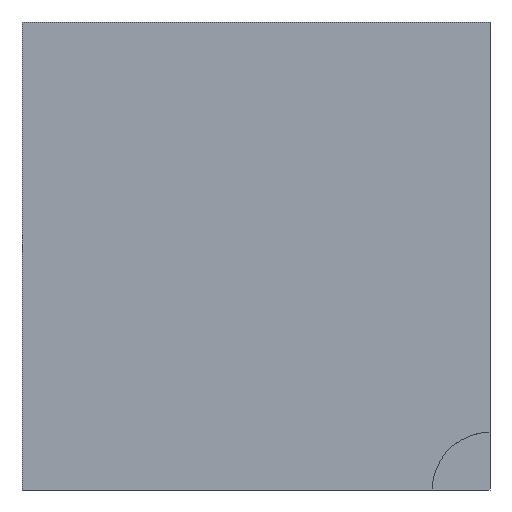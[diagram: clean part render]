
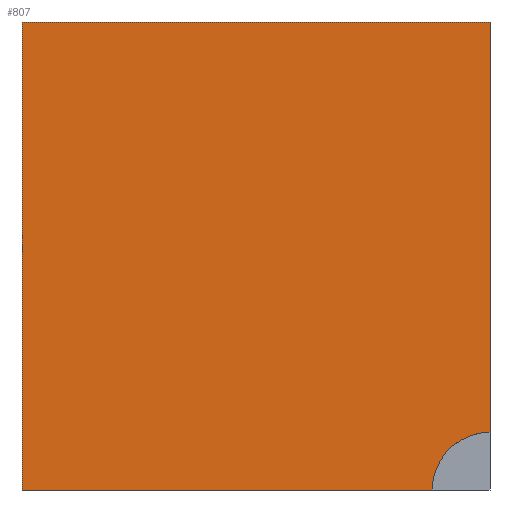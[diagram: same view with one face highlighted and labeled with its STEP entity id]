
A CAD part, left-side view. The second image highlights one B-rep face of the part: STEP entity #807.
In plain terms, the highlighted planar face has unit normal (-1, 0, 0).
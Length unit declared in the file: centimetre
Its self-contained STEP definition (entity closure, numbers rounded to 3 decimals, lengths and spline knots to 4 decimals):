
#58 = CARTESIAN_POINT ( 'NONE',  ( 0., 1000., 1000. ) ) ;
#103 = CARTESIAN_POINT ( 'NONE',  ( 0., 1000., 0. ) ) ;
#120 = CIRCLE ( 'NONE', #719, 123.4486 ) ;
#126 = DIRECTION ( 'NONE',  ( 0., 0., 1. ) ) ;
#130 = DIRECTION ( 'NONE',  ( 0., -1., 0. ) ) ;
#132 = CARTESIAN_POINT ( 'NONE',  ( 0., 0., 1000. ) ) ;
#162 = LINE ( 'NONE', #58, #990 ) ;
#215 = CARTESIAN_POINT ( 'NONE',  ( 0., 1000., 1000. ) ) ;
#216 = VERTEX_POINT ( 'NONE', #361 ) ;
#232 = DIRECTION ( 'NONE',  ( 1., 0., 0. ) ) ;
#234 = ORIENTED_EDGE ( 'NONE', *, *, #1017, .F. ) ;
#252 = DIRECTION ( 'NONE',  ( 0., 0., -1. ) ) ;
#275 = EDGE_CURVE ( 'NONE', #487, #633, #162, .T. ) ;
#299 = LINE ( 'NONE', #215, #580 ) ;
#361 = CARTESIAN_POINT ( 'NONE',  ( 0., 123.4486, 0. ) ) ;
#364 = ORIENTED_EDGE ( 'NONE', *, *, #874, .T. ) ;
#377 = FACE_OUTER_BOUND ( 'NONE', #578, .T. ) ;
#379 = EDGE_CURVE ( 'NONE', #487, #1013, #299, .T. ) ;
#441 = VERTEX_POINT ( 'NONE', #966 ) ;
#487 = VERTEX_POINT ( 'NONE', #491 ) ;
#491 = CARTESIAN_POINT ( 'NONE',  ( 0., 1000., 1000. ) ) ;
#578 = EDGE_LOOP ( 'NONE', ( #364, #234, #819, #1015, #668 ) ) ;
#580 = VECTOR ( 'NONE', #130, 100. ) ;
#598 = CARTESIAN_POINT ( 'NONE',  ( 0., 1000., 0. ) ) ;
#633 = VERTEX_POINT ( 'NONE', #598 ) ;
#654 = LINE ( 'NONE', #103, #954 ) ;
#668 = ORIENTED_EDGE ( 'NONE', *, *, #275, .T. ) ;
#681 = CARTESIAN_POINT ( 'NONE',  ( 0., 0., 0. ) ) ;
#684 = AXIS2_PLACEMENT_3D ( 'NONE', #943, #232, #717 ) ;
#698 = LINE ( 'NONE', #946, #1010 ) ;
#717 = DIRECTION ( 'NONE',  ( 0., 0., -1. ) ) ;
#719 = AXIS2_PLACEMENT_3D ( 'NONE', #681, #1011, #126 ) ;
#725 = EDGE_CURVE ( 'NONE', #1013, #441, #698, .T. ) ;
#807 = ADVANCED_FACE ( 'NONE', ( #377 ), #1047, .F. ) ;
#819 = ORIENTED_EDGE ( 'NONE', *, *, #725, .F. ) ;
#830 = DIRECTION ( 'NONE',  ( 0., -1., 0. ) ) ;
#874 = EDGE_CURVE ( 'NONE', #633, #216, #654, .T. ) ;
#943 = CARTESIAN_POINT ( 'NONE',  ( 0., 1000., 1000. ) ) ;
#946 = CARTESIAN_POINT ( 'NONE',  ( 0., 0., 1000. ) ) ;
#954 = VECTOR ( 'NONE', #830, 100. ) ;
#966 = CARTESIAN_POINT ( 'NONE',  ( 0., 0., 123.4486 ) ) ;
#972 = DIRECTION ( 'NONE',  ( 0., 0., -1. ) ) ;
#990 = VECTOR ( 'NONE', #972, 100. ) ;
#1010 = VECTOR ( 'NONE', #252, 100. ) ;
#1011 = DIRECTION ( 'NONE',  ( -1., 0., 0. ) ) ;
#1013 = VERTEX_POINT ( 'NONE', #132 ) ;
#1015 = ORIENTED_EDGE ( 'NONE', *, *, #379, .F. ) ;
#1017 = EDGE_CURVE ( 'NONE', #441, #216, #120, .T. ) ;
#1047 = PLANE ( 'NONE',  #684 ) ;
